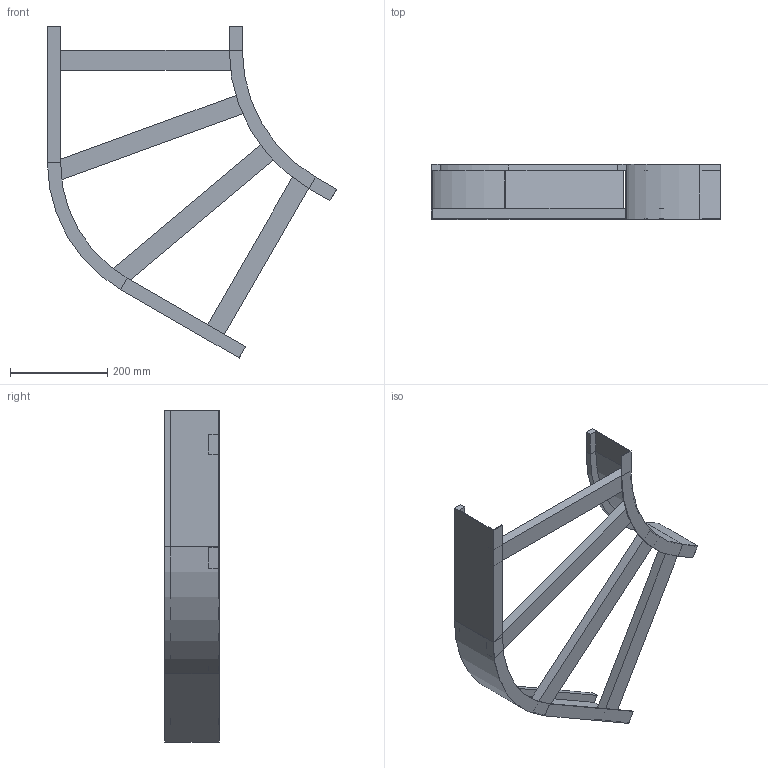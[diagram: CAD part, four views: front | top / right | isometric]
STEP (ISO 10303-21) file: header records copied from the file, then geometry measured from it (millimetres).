
FILE_DESCRIPTION (( 'STEP AP214' ), '1' );
FILE_NAME ('B2_13B3J400.step', '2025-02-21T15:20:03', ( '' ), ( '' ), 'SwSTEP 2.0', 'SolidWorks 2023', '' );
FILE_SCHEMA (( 'AUTOMOTIVE_DESIGN' ));
Length unit declared in the file: millimetre
Products named in the file (5): B2_LONGH.ESTERNO 60°_H112.5_R300+400; B2_LONGH.INTERNO 60°_H112.5_R300; TRAVERSINO_500_SCANTONATO; B2_13B3J400; TRAVERSINO_400
Assembly tree (6 placements, depth 2):
  B2_13B3J400
    B2_LONGH.INTERNO 60°_H112.5_R300
    B2_LONGH.ESTERNO 60°_H112.5_R300+400
    TRAVERSINO_400  x2
    TRAVERSINO_500_SCANTONATO  x2
Bounding box: 593.3 x 112.5 x 681.22 mm (x, y, z)
Volume: 1956478.7 mm3; surface area: 611919.8 mm2
Topology: 6 solids, 6 shells, 76 faces, 160 edges, 96 vertices
Faces by surface type: plane 68, cylinder 8
Entity records: 1830 total; most frequent: DIRECTION 298, CARTESIAN_POINT 289, ORIENTED_EDGE 272, EDGE_CURVE 136, VECTOR 120, LINE 120, AXIS2_PLACEMENT_3D 89, VERTEX_POINT 80
